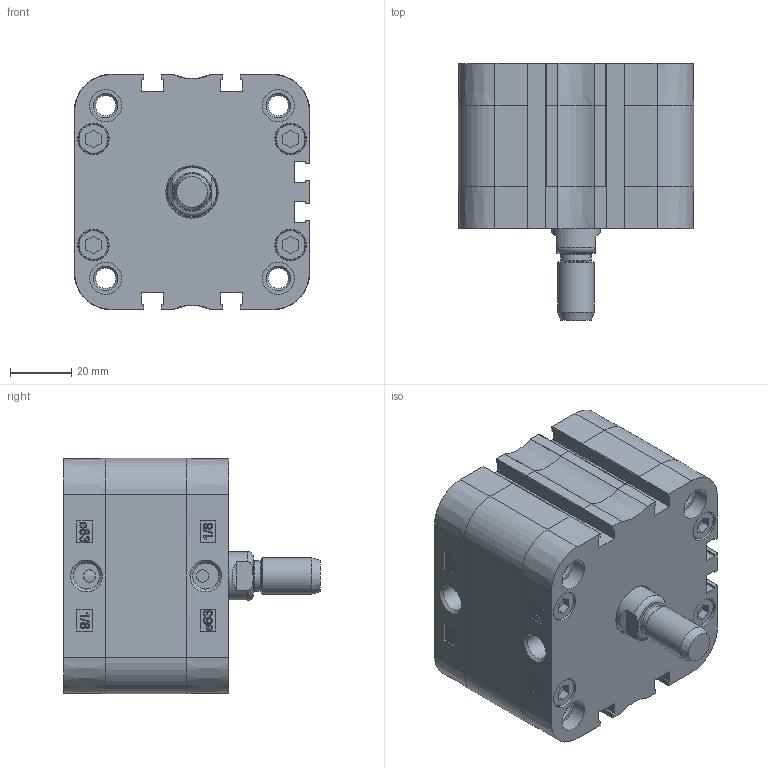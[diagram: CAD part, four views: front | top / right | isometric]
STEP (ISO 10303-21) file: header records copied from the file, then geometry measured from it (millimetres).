
FILE_DESCRIPTION((''),'2;1');
FILE_NAME('T:\Archivio Inventor\- CATALOGHI 2012\SERIE P - NUOVA\PDM\PDM063\PDM063.---.GS.M\PDM063.005.GS.M.stp','2013-02-04T09:15:57',('Administrator'),(''),'Autodesk Inventor 2012','Autodesk Inventor 2012','');
FILE_SCHEMA(('CONFIG_CONTROL_DESIGN'));
Length unit declared in the file: millimetre
Products named in the file (1): PDM063.005.GS.M
Bounding box: 77 x 84 x 77 mm (x, y, z)
Volume: 182658.4 mm3; surface area: 67935 mm2
Topology: 1 solids, 5 shells, 824 faces, 1993 edges, 1252 vertices
Faces by surface type: plane 346, bspline 218, cylinder 142, torus 55, cone 45, sphere 18
Full cylindrical faces by diameter (mm): 4 x2, 6.3 x4, 6.647 x8, 8.047 x4, 8.566 x2, 9.8 x8, 10 x1, 10.3 x8, 10.5 x8, 12 x2, 16 x1, 16.5 x1, 63 x1, 65.4 x1, 65.6 x1
Entity records: 27348 total; most frequent: CARTESIAN_POINT 9100, ORIENTED_EDGE 3744, DIRECTION 3031, EDGE_CURVE 1872, VERTEX_POINT 1231, AXIS2_PLACEMENT_3D 1026, EDGE_LOOP 1003, VECTOR 979
